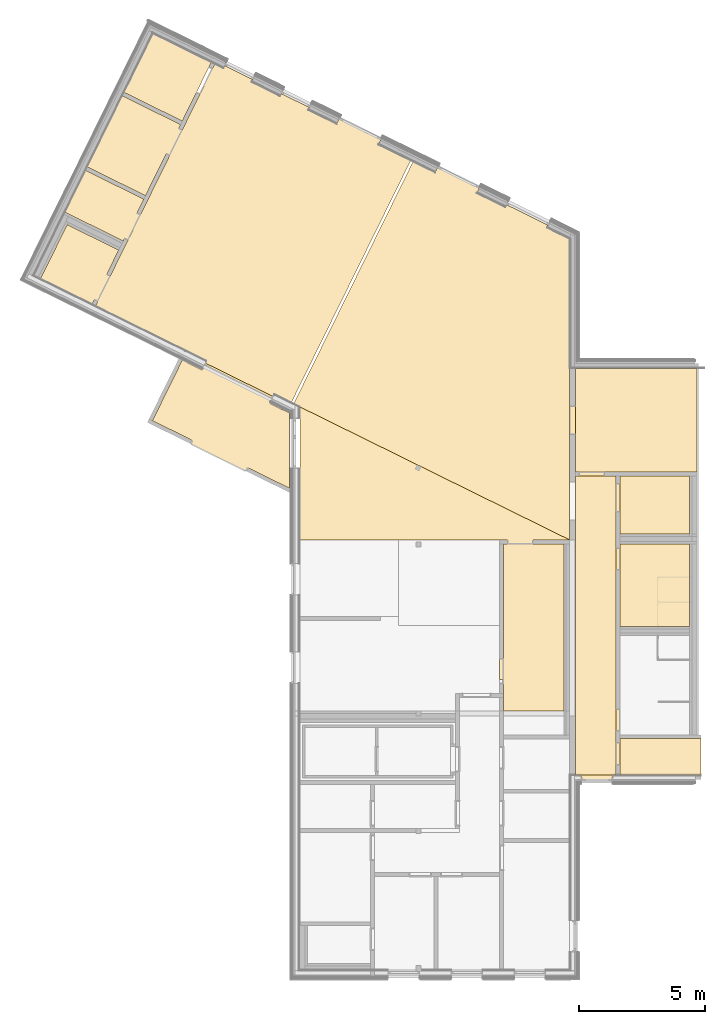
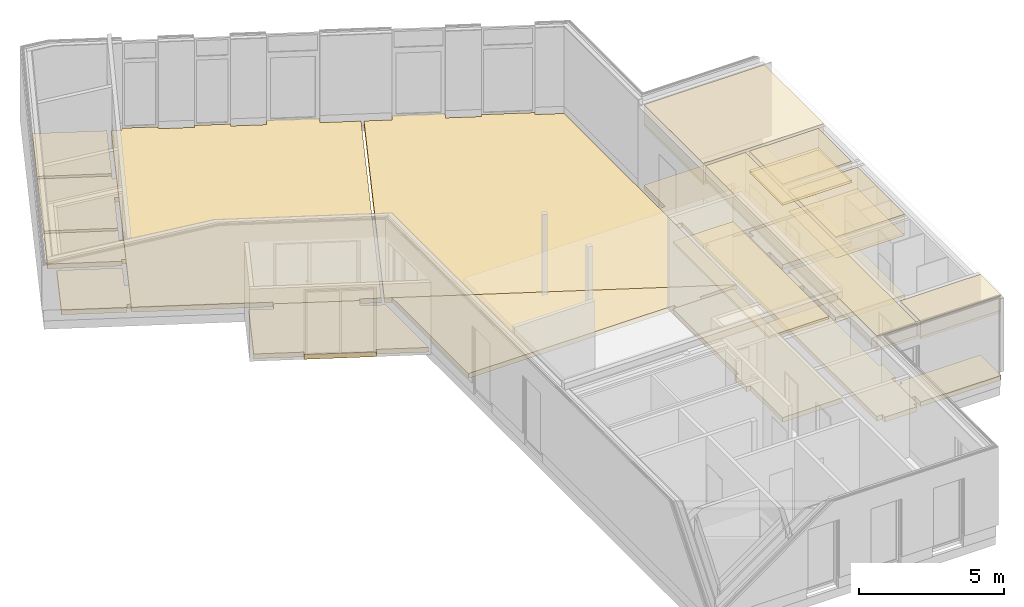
# One storey, part 23 of 23: 33 coverings.
"""IFC4 building model written with IfcOpenShell, lengths in metres."""

from ifc_helpers import new_model, entity, si_unit, converted_unit, derived_unit, frame, frame_2d, origin, origin_with_axes, place, context, subcontext, project, spatial, polyline, rectangle, outline, extrude, material, layer, layer_set, layer_usage, element, save


model = new_model("IFC4")

# Units and contexts
model_context = context("Model", 3, precision=1e-05, world=origin())
body_context = subcontext(model_context, "Body", "Model", "MODEL_VIEW")
ifc_project = project(units=[si_unit("LENGTHUNIT", "METRE"), si_unit("AREAUNIT", "SQUARE_METRE"), si_unit("VOLUMEUNIT", "CUBIC_METRE"), si_unit("MASSUNIT", "GRAM", prefix="KILO"), converted_unit("PLANEANGLEUNIT", "DEGREE", entity("IfcPlaneAngleMeasure", 0.0174532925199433), si_unit("PLANEANGLEUNIT", "RADIAN"), dimensions=[0, 0, 0, 0, 0, 0, 0]), derived_unit("THERMALTRANSMITTANCEUNIT", [(si_unit("POWERUNIT", "WATT"), 1), (si_unit("THERMODYNAMICTEMPERATUREUNIT", "KELVIN"), -1), (si_unit("LENGTHUNIT", "METRE"), -2)]), derived_unit("VOLUMETRICFLOWRATEUNIT", [(si_unit("LENGTHUNIT", "METRE"), 3), (converted_unit("TIMEUNIT", "hour", entity("IfcTimeMeasure", 3600.0), si_unit("TIMEUNIT", "SECOND"), dimensions=[0, 0, 1, 0, 0, 0, 0]), -1), (si_unit("LENGTHUNIT", "METRE"), -1)])], contexts=[model_context])

# Site, building, storey, space
site_placement = place(None, origin())
site = spatial("IfcSite", under=ifc_project, at=site_placement, Name="Psychiatrie Neubau Wunstorf", CompositionType="ELEMENT")
building_placement = place(site_placement, origin())
building = spatial("IfcBuilding", under=site, at=building_placement, Name="Neubau H1 Sozialzentrum", CompositionType="ELEMENT")
storey_placement = place(building_placement, frame((0.0, 0.0, 0.7)))
storey = spatial("IfcBuildingStorey", under=building, at=storey_placement, Name="H1 Ebene 0", CompositionType="ELEMENT", Elevation=0.7)
space_1_placement = place(storey_placement, frame((-4.93452529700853, 11.9922463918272, -0.2)))
space_1 = spatial("IfcSpace", under=storey, at=space_1_placement, Name="WUN-H1-E00", CompositionType="ELEMENT")

# Coverings
ifc_material_1 = material(Name="Fl12")
ifc_layer_1 = layer(ifc_material_1, 0.2)
ifc_layer_set_1 = layer_set([ifc_layer_1])
ifc_layer_usage_1 = layer_usage(ifc_layer_set_1, "AXIS3", "POSITIVE", 0.0)
covering_1_placement = place(space_1_placement, frame((0.0, -0.181999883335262, 0.0)))
element("IfcCovering", 1, at=covering_1_placement, inside=space_1, material=ifc_layer_usage_1, Name="Fliesen Großformat", PredefinedType="FLOORING", context=body_context, shape_type="SweptSolid", body=[
    extrude(rectangle(XDim=0.181999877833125, YDim=1.26000000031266, at=frame_2d((0.629999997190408, -0.0909999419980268), x_axis=(-3.25925690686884e-08, -1.0))), frame((0.219998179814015, 0.181999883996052, 0.0), z_axis=(0.0, 0.0, 1.0), x_axis=(1.0, 0.0, 0.0)), (0.0, 0.0, 1.0), 0.2),
    extrude(rectangle(XDim=0.15, YDim=1.01, at=frame_2d((0.505, -0.075), x_axis=(0.0, -1.0))), frame((0.13799817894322, 12.1779980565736, 0.0), z_axis=(0.0, 0.0, 1.0), x_axis=(1.0, 0.0, 0.0)), (0.0, 0.0, 1.0), 0.2),
    extrude(rectangle(XDim=0.15, YDim=0.885, at=frame_2d((0.0749999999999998, 0.4425), x_axis=(1.0, 0.0))), frame((1.60002382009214, 8.29299980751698, 0.0), z_axis=(0.0, 0.0, 1.0), x_axis=(1.0, 0.0, 0.0)), (0.0, 0.0, 1.0), 0.2),
    extrude(rectangle(XDim=0.15, YDim=0.885, at=frame_2d((-0.0749999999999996, -0.4425), x_axis=(-1.0, 0.0))), frame((1.75002382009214, 2.79699980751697, 0.0), z_axis=(0.0, 0.0, 1.0), x_axis=(1.0, 0.0, 0.0)), (0.0, 0.0, 1.0), 0.2),
    extrude(rectangle(XDim=11.8459981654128, YDim=1.60002382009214, at=frame_2d((0.800011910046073, -5.92299908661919), x_axis=(4.60659214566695e-16, -1.0))), frame((0.0, 12.0279980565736, 0.0), z_axis=(0.0, 0.0, 1.0), x_axis=(1.0, 0.0, 0.0)), (0.0, 0.0, 1.0), 0.2),
])
ifc_material_2 = material()
ifc_layer_2 = layer(ifc_material_2, 0.036)
ifc_layer_set_2 = layer_set([ifc_layer_2])
ifc_layer_usage_2 = layer_usage(ifc_layer_set_2, "AXIS3", "POSITIVE", 0.0)
covering_2_placement = place(space_1_placement, frame((0.0, 0.0, 3.6)))
element("IfcCovering", 2, at=covering_2_placement, inside=space_1, material=ifc_layer_usage_2, Name="Gipsfaserplatten 2-lagig (BSK)", PredefinedType="CEILING", context=body_context, shape_type="SweptSolid", body=[
    extrude(rectangle(XDim=11.8459981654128, YDim=1.60002382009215, at=frame_2d((0.800011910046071, -5.9229990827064), x_axis=(-4.60659214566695e-16, -1.0))), frame((0.0, 0.0, 0.0), z_axis=(0.0, 0.0, -1.0), x_axis=(1.0, 0.0, 0.0)), (0.0, 0.0, 1.0), 0.036),
])
ifc_material_3 = material(Name="Installationshöhe")
ifc_layer_3 = layer(ifc_material_3, 0.514)
ifc_layer_set_3 = layer_set([ifc_layer_3])
ifc_layer_usage_3 = layer_usage(ifc_layer_set_3, "AXIS3", "POSITIVE", 0.0)
covering_3_placement = place(space_1_placement, frame((0.0, 0.0, 3.564)))
element("IfcCovering", 3, at=covering_3_placement, inside=space_1, material=ifc_layer_usage_3, PredefinedType="CEILING", context=body_context, shape_type="SweptSolid", body=[
    extrude(rectangle(XDim=11.8459981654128, YDim=1.60002382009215, at=frame_2d((0.800011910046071, -5.9229990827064), x_axis=(-4.60659214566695e-16, -1.0))), frame((0.0, 0.0, 0.0), z_axis=(0.0, 0.0, -1.0), x_axis=(1.0, 0.0, 0.0)), (0.0, 0.0, 1.0), 0.514),
])
ifc_material_4 = material(Name="A1")
ifc_layer_4 = layer(ifc_material_4, 0.1)
ifc_layer_set_4 = layer_set([ifc_layer_4])
ifc_layer_usage_4 = layer_usage(ifc_layer_set_4, "AXIS3", "POSITIVE", 0.0)
covering_4_placement = place(space_1_placement, frame((0.0, 0.0, 3.05)))
element("IfcCovering", 4, at=covering_4_placement, inside=space_1, material=ifc_layer_usage_4, PredefinedType="CEILING", context=body_context, shape_type="SweptSolid", body=[
    extrude(rectangle(XDim=11.8459981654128, YDim=1.60002382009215, at=frame_2d((0.800011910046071, -5.9229990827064), x_axis=(-4.60659214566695e-16, -1.0))), frame((0.0, 0.0, 0.0), z_axis=(0.0, 0.0, -1.0), x_axis=(1.0, 0.0, 0.0)), (0.0, 0.0, 1.0), 0.1),
])
ifc_material_5 = material(Name="D1")
ifc_layer_5 = layer(ifc_material_5, 0.001)
ifc_layer_set_5 = layer_set([ifc_layer_5])
ifc_layer_usage_5 = layer_usage(ifc_layer_set_5, "AXIS3", "POSITIVE", 0.0)
covering_5_placement = place(space_1_placement, frame((0.0, 0.0, 2.95)))
element("IfcCovering", 5, at=covering_5_placement, inside=space_1, material=ifc_layer_usage_5, PredefinedType="CEILING", context=body_context, shape_type="SweptSolid", body=[
    extrude(rectangle(XDim=11.8459981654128, YDim=1.60002382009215, at=frame_2d((0.800011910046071, -5.9229990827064), x_axis=(-4.60659214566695e-16, -1.0))), frame((0.0, 0.0, 0.0), z_axis=(0.0, 0.0, -1.0), x_axis=(1.0, 0.0, 0.0)), (0.0, 0.0, 1.0), 0.001),
])

# Space
space_2_placement = place(storey_placement, frame((-23.9635069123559, 26.7367871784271, -0.2)))
space_2 = spatial("IfcSpace", under=storey, at=space_2_placement, Name="WUN-H1-E00", CompositionType="ELEMENT")

# Covering
ifc_material_6 = material(Name="Fl12")
ifc_layer_6 = layer(ifc_material_6, 0.2)
ifc_layer_set_6 = layer_set([ifc_layer_6])
ifc_layer_usage_6 = layer_usage(ifc_layer_set_6, "AXIS3", "POSITIVE", 0.0)
covering_6_placement = place(space_2_placement, origin())
element("IfcCovering", 6, at=covering_6_placement, inside=space_2, material=ifc_layer_usage_6, Name="Fliesen Großformat", PredefinedType="FLOORING", context=body_context, shape_type="SweptSolid", body=[
    extrude(rectangle(XDim=0.115998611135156, YDim=1.25, at=frame_2d((-0.534917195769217, 0.328409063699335), x_axis=(0.442222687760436, 0.896905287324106))), frame((8.43588656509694, 11.5902432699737, 0.0), z_axis=(1.28745637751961e-16, 2.0970266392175e-16, 1.0), x_axis=(1.0, 0.0, 0.0)), (0.0, -2.0970266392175e-16, 1.0), 0.2),
    extrude(rectangle(XDim=0.115998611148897, YDim=1.25000000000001, at=frame_2d((-0.534917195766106, 0.328409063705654), x_axis=(0.442222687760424, 0.896905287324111))), frame((6.19362334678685, 12.6957999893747, 0.0), z_axis=(0.0, 0.0, 1.0), x_axis=(1.0, 0.0, 0.0)), (0.0, 0.0, 1.0), 0.2),
    extrude(rectangle(XDim=0.276000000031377, YDim=1.85000000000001, at=frame_2d((0.768610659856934, -0.532828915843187), x_axis=(-0.44222268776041, -0.896905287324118))), frame((9.67906910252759, 11.2850120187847, 0.0), z_axis=(-3.1759624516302e-17, -9.91547076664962e-17, 1.0), x_axis=(1.0, 0.0, 0.0)), (0.0, 9.91547076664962e-17, 1.0), 0.2),
    extrude(rectangle(XDim=0.0999986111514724, YDim=2.9999894, at=frame_2d((1.32324235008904, -0.708176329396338), x_axis=(-0.44222268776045, -0.896905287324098))), frame((4.3972620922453, 1.6606756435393, 0.0), z_axis=(1.34186216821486e-16, 2.50729765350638e-16, 1.0), x_axis=(1.0, 0.0, 0.0)), (0.0, -2.50729765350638e-16, 1.0), 0.2),
    extrude(outline(polyline([(4.72817918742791, 13.4183430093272), (0.0, 3.8287630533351), (7.76540399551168, 0.0), (12.4935839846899, 9.58957956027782), (4.72817918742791, 13.4183430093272)])), origin_with_axes(), (0.0, 0.0, 1.0), 0.2),
])

# Space
space_3_placement = place(storey_placement, frame((-16.1084123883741, 21.2976243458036, -0.2)))
space_3 = spatial("IfcSpace", under=storey, at=space_3_placement, Name="WUN-H1-E00", CompositionType="ELEMENT")

# Covering
ifc_material_7 = material(Name="Fl12")
ifc_layer_7 = layer(ifc_material_7, 0.2)
ifc_layer_set_7 = layer_set([ifc_layer_7])
ifc_layer_usage_7 = layer_usage(ifc_layer_set_7, "AXIS3", "POSITIVE", 0.0)
covering_7_placement = place(space_3_placement, origin())
element("IfcCovering", 7, at=covering_7_placement, inside=space_3, material=ifc_layer_usage_7, Name="Fliesen Großformat", PredefinedType="FLOORING", context=body_context, shape_type="SweptSolid", body=[
    extrude(rectangle(XDim=0.115998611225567, YDim=1.85, at=frame_2d((-0.80398878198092, 0.461075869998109), x_axis=(0.442222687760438, 0.896905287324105))), frame((10.0431428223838, 12.3639567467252, 0.0), z_axis=(0.0, 0.0, 1.0), x_axis=(1.0, 0.0, 0.0)), (0.0, 0.0, 1.0), 0.2),
    extrude(rectangle(XDim=0.275999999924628, YDim=1.85000000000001, at=frame_2d((0.768610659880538, -0.532828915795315), x_axis=(-0.442222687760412, -0.896905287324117))), frame((5.72551257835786, 14.8005061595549, 0.0), z_axis=(0.0, 0.0, 1.0), x_axis=(1.0, 0.0, 0.0)), (0.0, 0.0, 1.0), 0.2),
    extrude(outline(polyline([(10.9418870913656, 11.9208273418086), (4.72817998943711, 14.9845201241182), (0.0, 5.39494056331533), (10.9418870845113, 0.0), (10.9418870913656, 11.9208273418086)])), origin_with_axes(), (0.0, 0.0, 1.0), 0.2),
])

# Space
space_4_placement = place(storey_placement, frame((-15.8625266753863, 21.2882463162, -0.2)))
space_4 = spatial("IfcSpace", under=storey, at=space_4_placement, Name="WUN-H1-E00", CompositionType="ELEMENT")

# Covering
ifc_material_8 = material(Name="Fl12")
ifc_layer_8 = layer(ifc_material_8, 0.2)
ifc_layer_set_8 = layer_set([ifc_layer_8])
ifc_layer_usage_8 = layer_usage(ifc_layer_set_8, "AXIS3", "POSITIVE", 0.0)
covering_8_placement = place(space_4_placement, frame((0.0, -0.150000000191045, 0.0)))
element("IfcCovering", 8, at=covering_8_placement, inside=space_4, material=ifc_layer_usage_8, Name="Fliesen Großformat", PredefinedType="FLOORING", context=body_context, shape_type="SweptSolid", body=[
    extrude(rectangle(XDim=0.149999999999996, YDim=1.01, at=frame_2d((0.505, -0.0749999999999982), x_axis=(0.0, -1.0))), frame((8.22099960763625, 0.15, 0.0), z_axis=(0.0, 0.0, 1.0), x_axis=(1.0, 0.0, 0.0)), (0.0, 0.0, 1.0), 0.2),
    extrude(outline(polyline([(0.0, 0.0), (10.6960013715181, 0.0), (10.6960013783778, 0.00937802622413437), (0.0, 5.283083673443), (0.0, 0.0)])), frame((0.0, 0.150000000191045, 0.0), z_axis=(0.0, 0.0, 1.0), x_axis=(1.0, 0.0, 0.0)), (0.0, 0.0, 1.0), 0.2),
])

# Space
space_5_placement = place(storey_placement, frame((-21.7041744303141, 23.3408249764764, -0.2)))
space_5 = spatial("IfcSpace", under=storey, at=space_5_placement, Name="WUN-H1-E00", CompositionType="ELEMENT")

# Covering
ifc_material_9 = material(Name="Fl12")
ifc_layer_9 = layer(ifc_material_9, 0.2)
ifc_layer_set_9 = layer_set([ifc_layer_9])
ifc_layer_usage_9 = layer_usage(ifc_layer_set_9, "AXIS3", "POSITIVE", 0.0)
covering_9_placement = place(space_5_placement, origin())
element("IfcCovering", 9, at=covering_9_placement, inside=space_5, material=ifc_layer_usage_9, Name="Fliesen Großformat", PredefinedType="FLOORING", context=body_context, shape_type="SweptSolid", body=[
    extrude(rectangle(XDim=0.149999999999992, YDim=2.5, at=frame_2d((1.08796490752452, -0.620046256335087), x_axis=(-0.442222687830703, -0.89690528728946))), frame((1.56061185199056, 1.912574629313, 0.0), z_axis=(0.0, 0.0, 1.0), x_axis=(1.0, 0.0, 0.0)), (0.0, 0.0, 1.0), 0.2),
    extrude(rectangle(XDim=0.301999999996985, YDim=2.9999894, at=frame_2d((1.27857755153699, -0.798764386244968), x_axis=(-0.442222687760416, -0.896905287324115))), frame((2.0937079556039, 4.96694856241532, 0.0), z_axis=(0.0, 0.0, 1.0), x_axis=(1.0, 0.0, 0.0)), (0.0, 0.0, 1.0), 0.2),
    extrude(outline(polyline([(5.43964914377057, 2.98050570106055), (1.18216019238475, 5.07967741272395), (0.0, 2.68203224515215), (5.43964914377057, 0.0), (5.43964914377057, 2.98050570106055)])), origin_with_axes(), (0.0, 0.0, 1.0), 0.2),
])

# Space
space_6_placement = place(storey_placement, frame((-26.1429719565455, 30.6318792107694, -0.2)))
space_6 = spatial("IfcSpace", under=storey, at=space_6_placement, Name="WUN-H1-E00", CompositionType="ELEMENT")

# Covering
ifc_material_10 = material(Name="Fl1")
ifc_layer_10 = layer(ifc_material_10, 0.2)
ifc_layer_set_10 = layer_set([ifc_layer_10])
ifc_layer_usage_10 = layer_usage(ifc_layer_set_10, "AXIS3", "POSITIVE", 0.0)
covering_10_placement = place(space_6_placement, origin())
element("IfcCovering", 10, at=covering_10_placement, inside=space_6, material=ifc_layer_usage_10, Name="Fliesen", PredefinedType="FLOORING", context=body_context, shape_type="SweptSolid", body=[
    extrude(rectangle(XDim=0.149967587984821, YDim=1.135, at=frame_2d((0.318214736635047, 0.475834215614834), x_axis=(0.896905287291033, -0.442222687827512))), frame((2.1333908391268, 0.179377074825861, 0.0), z_axis=(0.0, 0.0, 1.0), x_axis=(1.0, 0.0, 0.0)), (0.0, 0.0, 1.0), 0.2),
    extrude(outline(polyline([(1.06133445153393, 3.16083754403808), (0.0, 1.00826485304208), (2.04494003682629, 0.0), (3.10627850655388, 2.15256981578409), (1.06133445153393, 3.16083754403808)])), origin_with_axes(), (0.0, 0.0, 1.0), 0.2),
])

# Space
space_7_placement = place(storey_placement, frame((-3.18450147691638, 17.8622463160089, -0.2)))
space_7 = spatial("IfcSpace", under=storey, at=space_7_placement, Name="WUN-H1-E00", CompositionType="ELEMENT")

# Coverings
ifc_material_11 = material(Name="Fl1")
ifc_layer_11 = layer(ifc_material_11, 0.2)
ifc_layer_set_11 = layer_set([ifc_layer_11])
ifc_layer_usage_11 = layer_usage(ifc_layer_set_11, "AXIS3", "POSITIVE", 0.0)
covering_11_placement = place(space_7_placement, origin())
element("IfcCovering", 11, at=covering_11_placement, inside=space_7, material=ifc_layer_usage_11, Name="Fliesen", PredefinedType="FLOORING", context=body_context, shape_type="SweptSolid", body=[
    extrude(rectangle(XDim=2.76350322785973, YDim=3.27600000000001, at=frame_2d((-1.38175161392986, -1.638), x_axis=(-1.0, 0.0))), frame((2.76350322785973, 3.27600000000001, 0.0), z_axis=(0.0, 0.0, 1.0), x_axis=(1.0, 0.0, 0.0)), (0.0, 0.0, 1.0), 0.2),
])
ifc_material_12 = material()
ifc_layer_12 = layer(ifc_material_12, 0.036)
ifc_layer_set_12 = layer_set([ifc_layer_12])
ifc_layer_usage_12 = layer_usage(ifc_layer_set_12, "AXIS3", "POSITIVE", 0.0)
covering_12_placement = place(space_7_placement, frame((0.0, 0.0, 3.6)))
element("IfcCovering", 12, at=covering_12_placement, inside=space_7, material=ifc_layer_usage_12, Name="Gipsfaserplatten 2-lagig (BSK)", PredefinedType="CEILING", context=body_context, shape_type="SweptSolid", body=[
    extrude(rectangle(XDim=2.76350322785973, YDim=3.27600000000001, at=frame_2d((1.38175161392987, 1.638), x_axis=(1.0, 0.0))), frame((0.0, 3.27600000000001, 0.0), z_axis=(0.0, 0.0, -1.0), x_axis=(1.0, 0.0, 0.0)), (0.0, 0.0, 1.0), 0.036),
])
ifc_material_13 = material(Name="Installationshöhe")
ifc_layer_13 = layer(ifc_material_13, 0.764)
ifc_layer_set_13 = layer_set([ifc_layer_13])
ifc_layer_usage_13 = layer_usage(ifc_layer_set_13, "AXIS3", "POSITIVE", 0.0)
covering_13_placement = place(space_7_placement, frame((0.0, 0.0, 3.564)))
element("IfcCovering", 13, at=covering_13_placement, inside=space_7, material=ifc_layer_usage_13, Name="Gipsfaserplatten 2-lagig (BSK)", PredefinedType="CEILING", context=body_context, shape_type="SweptSolid", body=[
    extrude(rectangle(XDim=2.76350322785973, YDim=3.27600000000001, at=frame_2d((1.38175161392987, 1.638), x_axis=(1.0, 0.0))), frame((0.0, 3.27600000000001, 0.0), z_axis=(0.0, 0.0, -1.0), x_axis=(1.0, 0.0, 0.0)), (0.0, 0.0, 1.0), 0.764),
])
ifc_material_14 = material(Name="B")
ifc_layer_14 = layer(ifc_material_14, 0.1)
ifc_layer_set_14 = layer_set([ifc_layer_14])
ifc_layer_usage_14 = layer_usage(ifc_layer_set_14, "AXIS3", "POSITIVE", 0.0)
covering_14_placement = place(space_7_placement, frame((0.0, 0.0, 2.8)))
element("IfcCovering", 14, at=covering_14_placement, inside=space_7, material=ifc_layer_usage_14, Name="Gipskarton, imprägniert", PredefinedType="CEILING", context=body_context, shape_type="SweptSolid", body=[
    extrude(rectangle(XDim=2.76350322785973, YDim=3.27600000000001, at=frame_2d((1.38175161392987, 1.638), x_axis=(1.0, 0.0))), frame((0.0, 3.27600000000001, 0.0), z_axis=(0.0, 0.0, -1.0), x_axis=(1.0, 0.0, 0.0)), (0.0, 0.0, 1.0), 0.1),
])
ifc_material_15 = material(Name="D1")
ifc_layer_15 = layer(ifc_material_15, 0.001)
ifc_layer_set_15 = layer_set([ifc_layer_15])
ifc_layer_usage_15 = layer_usage(ifc_layer_set_15, "AXIS3", "POSITIVE", 0.0)
covering_15_placement = place(space_7_placement, frame((0.0, 0.0, 2.7)))
element("IfcCovering", 15, at=covering_15_placement, inside=space_7, material=ifc_layer_usage_15, Name="Gipsfaserplatten 2-lagig (BSK)", PredefinedType="CEILING", context=body_context, shape_type="SweptSolid", body=[
    extrude(rectangle(XDim=2.76350322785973, YDim=3.27600000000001, at=frame_2d((1.38175161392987, 1.638), x_axis=(1.0, 0.0))), frame((0.0, 3.27600000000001, 0.0), z_axis=(0.0, 0.0, -1.0), x_axis=(1.0, 0.0, 0.0)), (0.0, 0.0, 1.0), 0.001),
])

# Space
space_8_placement = place(storey_placement, frame((-3.18450147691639, 21.5382445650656, -0.2)))
space_8 = spatial("IfcSpace", under=storey, at=space_8_placement, Name="WUN-H1-E00", CompositionType="ELEMENT")

# Coverings
ifc_material_16 = material(Name="Fl1")
ifc_layer_16 = layer(ifc_material_16, 0.2)
ifc_layer_set_16 = layer_set([ifc_layer_16])
ifc_layer_usage_16 = layer_usage(ifc_layer_set_16, "AXIS3", "POSITIVE", 0.0)
covering_16_placement = place(space_8_placement, frame((-0.15, 0.0, 0.0)))
element("IfcCovering", 16, at=covering_16_placement, inside=space_8, material=ifc_layer_usage_16, Name="Fliesen", PredefinedType="FLOORING", context=body_context, shape_type="SweptSolid", body=[
    extrude(rectangle(XDim=0.15, YDim=1.135, at=frame_2d((-0.0749999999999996, -0.5675), x_axis=(-1.0, 0.0))), frame((0.15, 2.00000000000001, 0.0), z_axis=(0.0, 0.0, 1.0), x_axis=(1.0, 0.0, 0.0)), (0.0, 0.0, 1.0), 0.2),
    extrude(rectangle(XDim=2.3, YDim=2.76350322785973, at=frame_2d((1.38175161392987, -1.15), x_axis=(0.0, -1.0))), frame((0.15, 2.3, 0.0), z_axis=(0.0, 0.0, 1.0), x_axis=(1.0, 0.0, 0.0)), (0.0, 0.0, 1.0), 0.2),
])
ifc_material_17 = material()
ifc_layer_17 = layer(ifc_material_17, 0.036)
ifc_layer_set_17 = layer_set([ifc_layer_17])
ifc_layer_usage_17 = layer_usage(ifc_layer_set_17, "AXIS3", "POSITIVE", 0.0)
covering_17_placement = place(space_8_placement, frame((0.0, 0.0, 3.6)))
element("IfcCovering", 17, at=covering_17_placement, inside=space_8, material=ifc_layer_usage_17, Name="Gipsfaserplatten 2-lagig (BSK)", PredefinedType="CEILING", context=body_context, shape_type="SweptSolid", body=[
    extrude(rectangle(XDim=2.3, YDim=2.76350322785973, at=frame_2d((1.38175161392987, -1.15), x_axis=(0.0, -1.0))), frame((0.0, 0.0, 0.0), z_axis=(0.0, 0.0, -1.0), x_axis=(1.0, 0.0, 0.0)), (0.0, 0.0, 1.0), 0.036),
])
ifc_material_18 = material(Name="Installationshöhe")
ifc_layer_18 = layer(ifc_material_18, 0.764)
ifc_layer_set_18 = layer_set([ifc_layer_18])
ifc_layer_usage_18 = layer_usage(ifc_layer_set_18, "AXIS3", "POSITIVE", 0.0)
covering_18_placement = place(space_8_placement, frame((0.0, 0.0, 3.564)))
element("IfcCovering", 18, at=covering_18_placement, inside=space_8, material=ifc_layer_usage_18, Name="Gipsfaserplatten 2-lagig (BSK)", PredefinedType="CEILING", context=body_context, shape_type="SweptSolid", body=[
    extrude(rectangle(XDim=2.3, YDim=2.76350322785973, at=frame_2d((1.38175161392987, -1.15), x_axis=(0.0, -1.0))), frame((0.0, 0.0, 0.0), z_axis=(0.0, 0.0, -1.0), x_axis=(1.0, 0.0, 0.0)), (0.0, 0.0, 1.0), 0.764),
])
ifc_material_19 = material(Name="B")
ifc_layer_19 = layer(ifc_material_19, 0.1)
ifc_layer_set_19 = layer_set([ifc_layer_19])
ifc_layer_usage_19 = layer_usage(ifc_layer_set_19, "AXIS3", "POSITIVE", 0.0)
covering_19_placement = place(space_8_placement, frame((0.0, 0.0, 2.8)))
element("IfcCovering", 19, at=covering_19_placement, inside=space_8, material=ifc_layer_usage_19, Name="Gipskarton, imprägniert", PredefinedType="CEILING", context=body_context, shape_type="SweptSolid", body=[
    extrude(rectangle(XDim=2.3, YDim=2.76350322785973, at=frame_2d((1.38175161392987, -1.15), x_axis=(0.0, -1.0))), frame((0.0, 0.0, 0.0), z_axis=(0.0, 0.0, -1.0), x_axis=(1.0, 0.0, 0.0)), (0.0, 0.0, 1.0), 0.1),
])
ifc_material_20 = material(Name="D1")
ifc_layer_20 = layer(ifc_material_20, 0.001)
ifc_layer_set_20 = layer_set([ifc_layer_20])
ifc_layer_usage_20 = layer_usage(ifc_layer_set_20, "AXIS3", "POSITIVE", 0.0)
covering_20_placement = place(space_8_placement, frame((0.0, 0.0, 2.7)))
element("IfcCovering", 20, at=covering_20_placement, inside=space_8, material=ifc_layer_usage_20, Name="Gipsfaserplatten 2-lagig (BSK)", PredefinedType="CEILING", context=body_context, shape_type="SweptSolid", body=[
    extrude(rectangle(XDim=2.3, YDim=2.76350322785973, at=frame_2d((1.38175161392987, -1.15), x_axis=(0.0, -1.0))), frame((0.0, 0.0, 0.0), z_axis=(0.0, 0.0, -1.0), x_axis=(1.0, 0.0, 0.0)), (0.0, 0.0, 1.0), 0.001),
])

# Space
space_9_placement = place(storey_placement, frame((-3.18450147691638, 11.9922462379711, -0.2)))
space_9 = spatial("IfcSpace", under=storey, at=space_9_placement, Name="WUN-H1-E00", CompositionType="ELEMENT")

# Coverings
ifc_material_21 = material(Name="Ku3")
ifc_layer_21 = layer(ifc_material_21, 0.2)
ifc_layer_set_21 = layer_set([ifc_layer_21])
ifc_layer_usage_21 = layer_usage(ifc_layer_set_21, "AXIS3", "POSITIVE", 0.0)
covering_21_placement = place(space_9_placement, frame((-0.150000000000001, 0.0, 0.0)))
element("IfcCovering", 21, at=covering_21_placement, inside=space_9, material=ifc_layer_usage_21, Name="PVC", PredefinedType="FLOORING", context=body_context, shape_type="SweptSolid", body=[
    extrude(rectangle(XDim=0.15, YDim=0.885, at=frame_2d((-0.0749999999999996, -0.4425), x_axis=(-1.0, 0.0))), frame((0.15, 1.28000007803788, 0.0), z_axis=(0.0, 0.0, 1.0), x_axis=(1.0, 0.0, 0.0)), (0.0, 0.0, 1.0), 0.2),
    extrude(rectangle(XDim=1.42999997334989, YDim=3.21450147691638, at=frame_2d((1.60725073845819, -0.715000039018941), x_axis=(0.0, -1.0))), frame((0.150000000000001, 1.43000007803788, 0.0), z_axis=(0.0, 0.0, 1.0), x_axis=(1.0, 0.0, 0.0)), (0.0, 0.0, 1.0), 0.2),
])
ifc_material_22 = material()
ifc_layer_22 = layer(ifc_material_22, 0.036)
ifc_layer_set_22 = layer_set([ifc_layer_22])
ifc_layer_usage_22 = layer_usage(ifc_layer_set_22, "AXIS3", "POSITIVE", 0.0)
covering_22_placement = place(space_9_placement, frame((0.0, 0.0, 3.6)))
element("IfcCovering", 22, at=covering_22_placement, inside=space_9, material=ifc_layer_usage_22, Name="Gipsfaserplatten 2-lagig (BSK)", PredefinedType="CEILING", context=body_context, shape_type="SweptSolid", body=[
    extrude(rectangle(XDim=1.42999997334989, YDim=3.21450147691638, at=frame_2d((1.60725073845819, -0.714999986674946), x_axis=(0.0, -1.0))), frame((0.0, 1.04687991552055e-07, 0.0), z_axis=(0.0, 0.0, -1.0), x_axis=(1.0, 0.0, 0.0)), (0.0, 0.0, 1.0), 0.036),
])
ifc_material_23 = material(Name="Installationshöhe")
ifc_layer_23 = layer(ifc_material_23, 0.614)
ifc_layer_set_23 = layer_set([ifc_layer_23], Name="Reference")
ifc_layer_usage_23 = layer_usage(ifc_layer_set_23, "AXIS3", "POSITIVE", 0.0)
covering_23_placement = place(space_9_placement, frame((0.0, 0.0, 3.564)))
element("IfcCovering", 23, at=covering_23_placement, inside=space_9, material=ifc_layer_usage_23, Name="Gipsfaserplatten 2-lagig (BSK)", PredefinedType="CEILING", context=body_context, shape_type="SweptSolid", body=[
    extrude(rectangle(XDim=1.42999997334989, YDim=3.21450147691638, at=frame_2d((1.60725073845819, -0.714999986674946), x_axis=(0.0, -1.0))), frame((0.0, 1.04687991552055e-07, 0.0), z_axis=(0.0, 0.0, -1.0), x_axis=(1.0, 0.0, 0.0)), (0.0, 0.0, 1.0), 0.614),
])
ifc_material_24 = material(Name="E3")
ifc_layer_24 = layer(ifc_material_24, 0.1)
ifc_layer_set_24 = layer_set([ifc_layer_24])
ifc_layer_usage_24 = layer_usage(ifc_layer_set_24, "AXIS3", "POSITIVE", 0.0)
covering_24_placement = place(space_9_placement, frame((0.0, 0.0, 2.95)))
element("IfcCovering", 24, at=covering_24_placement, inside=space_9, material=ifc_layer_usage_24, Name="Rasterdecke", PredefinedType="CEILING", context=body_context, shape_type="SweptSolid", body=[
    extrude(rectangle(XDim=1.42999997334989, YDim=3.21450147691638, at=frame_2d((1.60725073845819, -0.714999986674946), x_axis=(0.0, -1.0))), frame((0.0, 1.04687991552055e-07, 0.0), z_axis=(0.0, 0.0, -1.0), x_axis=(1.0, 0.0, 0.0)), (0.0, 0.0, 1.0), 0.1),
])

# Space
space_10_placement = place(storey_placement, frame((-24.2893810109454, 34.9370045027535, -0.2)))
space_10 = spatial("IfcSpace", under=storey, at=space_10_placement, Name="WUN-H1-E00", CompositionType="ELEMENT")

# Covering
ifc_material_25 = material(Name="Ku2")
ifc_layer_25 = layer(ifc_material_25, 0.2)
ifc_layer_set_25 = layer_set([ifc_layer_25])
ifc_layer_usage_25 = layer_usage(ifc_layer_set_25, "AXIS3", "POSITIVE", 0.0)
covering_25_placement = place(space_10_placement, origin())
element("IfcCovering", 25, at=covering_25_placement, inside=space_10, material=ifc_layer_usage_25, Name="PVC Bahnenware Uni", PredefinedType="FLOORING", context=body_context, shape_type="SweptSolid", body=[
    extrude(rectangle(XDim=0.149967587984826, YDim=1.13500110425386, at=frame_2d((-0.318214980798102, -0.475834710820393), x_axis=(-0.896905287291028, 0.442222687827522))), frame((3.76743939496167, 2.60867496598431, 0.0), z_axis=(0.0, 0.0, 1.0), x_axis=(1.0, 0.0, 0.0)), (0.0, 0.0, 1.0), 0.2),
    extrude(outline(polyline([(1.39090194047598, 3.96192831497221), (0.0, 1.14093486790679), (2.31401631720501, 0.0), (3.70486224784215, 2.82087984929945), (1.39090194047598, 3.96192831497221)])), origin_with_axes(), (0.0, 0.0, 1.0), 0.2),
])

# Space
space_11_placement = place(storey_placement, frame((-22.8321456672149, 37.8925389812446, -0.2)))
space_11 = spatial("IfcSpace", under=storey, at=space_11_placement, Name="WUN-H1-E00", CompositionType="ELEMENT")

# Covering
ifc_material_26 = material(Name="Ku2")
ifc_layer_26 = layer(ifc_material_26, 0.2)
ifc_layer_set_26 = layer_set([ifc_layer_26])
ifc_layer_usage_26 = layer_usage(ifc_layer_set_26, "AXIS3", "POSITIVE", 0.0)
covering_26_placement = place(space_11_placement, origin())
element("IfcCovering", 26, at=covering_26_placement, inside=space_11, material=ifc_layer_usage_26, Name="PVC Bahnenware Uni", PredefinedType="FLOORING", context=body_context, shape_type="SweptSolid", body=[
    extrude(outline(polyline([(1.14828369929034, 3.46985066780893), (0.0, 1.14092962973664), (2.31400569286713, 0.0), (3.46227224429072, 2.32892949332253), (1.14828369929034, 3.46985066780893)])), origin_with_axes(), (0.0, 0.0, 1.0), 0.2),
])

# Space
space_12_placement = place(storey_placement, frame((-4.93452529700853, 23.9882445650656, -0.2)))
space_12 = spatial("IfcSpace", under=storey, at=space_12_placement, Name="WUN-H1-E00", CompositionType="ELEMENT")

# Coverings
ifc_material_27 = material(Name="Ku2")
ifc_layer_27 = layer(ifc_material_27, 0.2)
ifc_layer_set_27 = layer_set([ifc_layer_27])
ifc_layer_usage_27 = layer_usage(ifc_layer_set_27, "AXIS3", "POSITIVE", 0.0)
covering_27_placement = place(space_12_placement, frame((-0.231999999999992, 0.0, 0.0)))
element("IfcCovering", 27, at=covering_27_placement, inside=space_12, material=ifc_layer_usage_27, Name="PVC Bahnenware Uni", PredefinedType="FLOORING", context=body_context, shape_type="SweptSolid", body=[
    extrude(rectangle(XDim=0.231999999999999, YDim=1.1350011, at=frame_2d((0.116, 0.567500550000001), x_axis=(1.0, 0.0))), frame((0.0, 1.48549944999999, 0.0), z_axis=(0.0, 0.0, 1.0), x_axis=(1.0, 0.0, 0.0)), (0.0, 0.0, 1.0), 0.2),
    extrude(rectangle(XDim=4.10599999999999, YDim=4.81352529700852, at=frame_2d((2.40676264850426, -2.053), x_axis=(-2.21503824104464e-15, -1.0))), frame((0.232000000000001, 4.10599999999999, 0.0), z_axis=(0.0, 0.0, 1.0), x_axis=(1.0, 0.0, 0.0)), (0.0, 0.0, 1.0), 0.2),
])
ifc_material_28 = material()
ifc_layer_28 = layer(ifc_material_28, 0.036)
ifc_layer_set_28 = layer_set([ifc_layer_28])
ifc_layer_usage_28 = layer_usage(ifc_layer_set_28, "AXIS3", "POSITIVE", 0.0)
covering_28_placement = place(space_12_placement, frame((0.0, 0.0, 3.6)))
element("IfcCovering", 28, at=covering_28_placement, inside=space_12, material=ifc_layer_usage_28, Name="Gipsfaserplatten 2-lagig (BSK)", PredefinedType="CEILING", context=body_context, shape_type="SweptSolid", body=[
    extrude(rectangle(XDim=4.10599999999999, YDim=4.81352529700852, at=frame_2d((2.40676264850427, -2.05299999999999), x_axis=(2.21503824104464e-15, -1.0))), frame((0.0, 0.0, 0.0), z_axis=(0.0, 0.0, -1.0), x_axis=(1.0, 0.0, 0.0)), (0.0, 0.0, 1.0), 0.036),
])
ifc_material_29 = material(Name="Installationshöhe")
ifc_layer_29 = layer(ifc_material_29, 0.764)
ifc_layer_set_29 = layer_set([ifc_layer_29], Name="Reference")
ifc_layer_usage_29 = layer_usage(ifc_layer_set_29, "AXIS3", "POSITIVE", 0.0)
covering_29_placement = place(space_12_placement, frame((0.0, 0.0, 3.564)))
element("IfcCovering", 29, at=covering_29_placement, inside=space_12, material=ifc_layer_usage_29, Name="Gipsfaserplatten 2-lagig (BSK)", PredefinedType="CEILING", context=body_context, shape_type="SweptSolid", body=[
    extrude(rectangle(XDim=4.10599999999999, YDim=4.81352529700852, at=frame_2d((2.40676264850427, -2.05299999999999), x_axis=(2.21503824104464e-15, -1.0))), frame((0.0, 0.0, 0.0), z_axis=(0.0, 0.0, -1.0), x_axis=(1.0, 0.0, 0.0)), (0.0, 0.0, 1.0), 0.764),
])
ifc_material_30 = material(Name="E3")
ifc_layer_30 = layer(ifc_material_30, 0.1)
ifc_layer_set_30 = layer_set([ifc_layer_30])
ifc_layer_usage_30 = layer_usage(ifc_layer_set_30, "AXIS3", "POSITIVE", 0.0)
covering_30_placement = place(space_12_placement, frame((0.0, 0.0, 2.8)))
element("IfcCovering", 30, at=covering_30_placement, inside=space_12, material=ifc_layer_usage_30, Name="Rasterdecke", PredefinedType="CEILING", context=body_context, shape_type="SweptSolid", body=[
    extrude(rectangle(XDim=4.10599999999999, YDim=4.81352529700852, at=frame_2d((2.40676264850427, -2.05299999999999), x_axis=(2.21503824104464e-15, -1.0))), frame((0.0, 0.0, 0.0), z_axis=(0.0, 0.0, -1.0), x_axis=(1.0, 0.0, 0.0)), (0.0, 0.0, 1.0), 0.1),
])

# Space
space_13_placement = place(storey_placement, frame((-25.1738192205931, 33.1432084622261, -0.2)))
space_13 = spatial("IfcSpace", under=storey, at=space_13_placement, Name="WUN-H1-E00", CompositionType="ELEMENT")

# Covering
ifc_material_31 = material(Name="Fl12")
ifc_layer_31 = layer(ifc_material_31, 0.2)
ifc_layer_set_31 = layer_set([ifc_layer_31])
ifc_layer_usage_31 = layer_usage(ifc_layer_set_31, "AXIS3", "POSITIVE", 0.0)
covering_31_placement = place(space_13_placement, origin())
element("IfcCovering", 31, at=covering_31_placement, inside=space_13, material=ifc_layer_usage_31, Name="Fliesen Großformat", PredefinedType="FLOORING", context=body_context, shape_type="SweptSolid", body=[
    extrude(rectangle(XDim=0.149967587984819, YDim=1.13500030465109, at=frame_2d((-0.318214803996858, -0.475834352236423), x_axis=(-0.896905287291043, 0.442222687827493))), frame((2.99882566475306, 1.04979131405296, 0.0), z_axis=(0.0, 0.0, 1.0), x_axis=(1.0, 0.0, 0.0)), (0.0, 0.0, 1.0), 0.2),
    extrude(rectangle(XDim=1.85001620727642, YDim=2.58000075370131, at=frame_2d((-0.747948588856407, 1.40011209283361), x_axis=(0.442222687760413, 0.896905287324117))), frame((2.31401631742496, 0.0, 0.0), z_axis=(0.0, 0.0, 1.0), x_axis=(1.0, 0.0, 0.0)), (0.0, 0.0, 1.0), 0.2),
])

# Space
space_14_placement = place(storey_placement, frame((-7.79152706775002, 13.5604215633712, -0.2)))
space_14 = spatial("IfcSpace", under=storey, at=space_14_placement, Name="WUN-H1-E00", CompositionType="ELEMENT")

# Coverings
ifc_material_32 = material(Name="E3")
ifc_layer_32 = layer(ifc_material_32, 0.1)
ifc_layer_set_32 = layer_set([ifc_layer_32])
ifc_layer_usage_32 = layer_usage(ifc_layer_set_32, "AXIS3", "POSITIVE", 0.0)
covering_32_placement = place(space_14_placement, frame((5.65930515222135e-07, 0.951824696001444, 3.05)))
element("IfcCovering", 32, at=covering_32_placement, inside=space_14, material=ifc_layer_usage_32, Name="Rasterdecke", PredefinedType="CEILING", context=body_context, shape_type="SweptSolid", body=[
    extrude(rectangle(XDim=6.62600005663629, YDim=2.40000120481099, at=frame_2d((1.20000060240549, -3.31300002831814), x_axis=(0.0, -1.0))), frame((0.0, 0.0, 0.0), z_axis=(0.0, 0.0, -1.0), x_axis=(1.0, 0.0, 0.0)), (0.0, 0.0, 1.0), 0.1),
])
ifc_material_33 = material(Name="Ku2")
ifc_layer_33 = layer(ifc_material_33, 0.2)
ifc_layer_set_33 = layer_set([ifc_layer_33])
ifc_layer_usage_33 = layer_usage(ifc_layer_set_33, "AXIS3", "POSITIVE", 0.0)
covering_33_placement = place(space_14_placement, frame((-0.149999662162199, 0.0, 0.0)))
element("IfcCovering", 33, at=covering_33_placement, inside=space_14, material=ifc_layer_usage_33, Name="PVC Bahnenware Uni", PredefinedType="FLOORING", context=body_context, shape_type="SweptSolid", body=[
    extrude(rectangle(XDim=0.827247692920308, YDim=0.149999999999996, at=frame_2d((-0.0750000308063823, 0.413623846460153), x_axis=(-7.44792263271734e-08, 0.999999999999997))), frame((0.150000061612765, 2.21457668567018, 0.0), z_axis=(0.0, 0.0, 1.0), x_axis=(1.0, 0.0, 0.0)), (0.0, 0.0, 1.0), 0.2),
    extrude(rectangle(XDim=2.4000017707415, YDim=7.57782475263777, at=frame_2d((-1.20000052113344, -3.78891237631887), x_axis=(-1.0, 0.0))), frame((2.5500014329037, 7.57782475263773, 0.0), z_axis=(0.0, 0.0, 1.0), x_axis=(1.0, 0.0, 0.0)), (0.0, 0.0, 1.0), 0.2),
])

save(model, "model.ifc")
